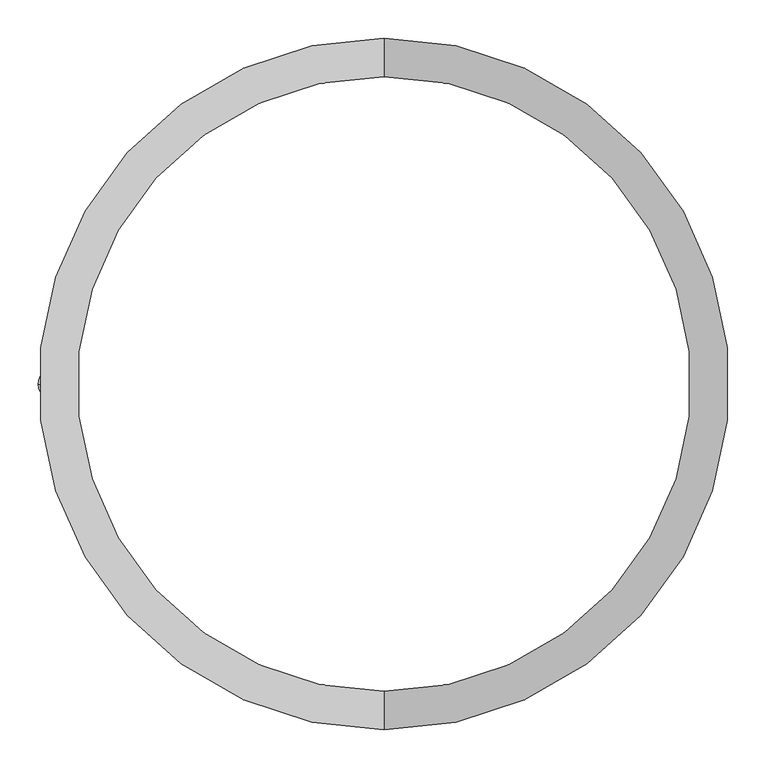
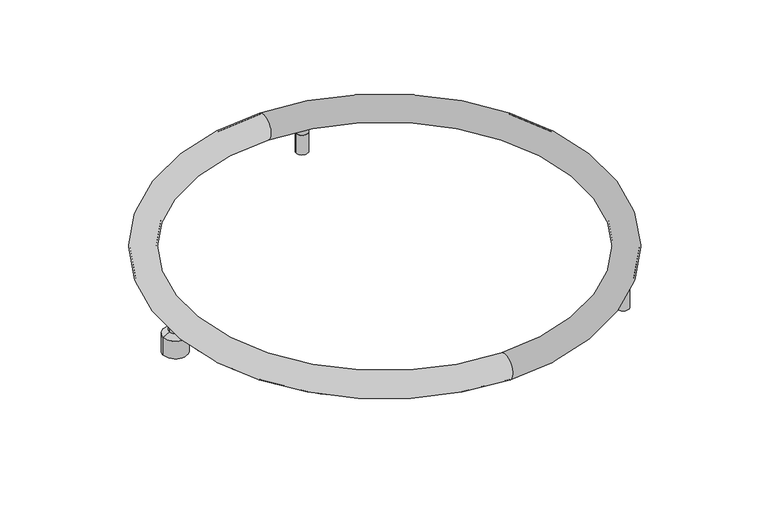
"""IFC4 building model written with IfcOpenShell, lengths in millimetres: light fixture geometry, ARTEMIDE-AoL-StandAlone-Circular_WallCeiling : StandALone_SemiRecessed_Circular-900mm 6040lm 3000K."""

from ifc_helpers import new_model, si_unit, point, frame, origin, place, context, project, spatial, polyline, circle_curve, ellipse_curve, trimmed, source, transform, mapped, element, save
from ifc_brep_helpers import plane_surface, cylinder_surface, revolved_surface, advanced_brep


def light_fixture_ff770107(model_context):
    return source(origin(), model_context, "Body", "AdvancedBrep", [
        advanced_brep(
        [(0.0, 0.0, 54.0), (12.0, 0.0, 54.0), (-12.0, 0.0, 54.0), (-25.0, 0.0, 0.0), (25.0, 0.0, 0.0), (0.0, 0.0, 0.0), (-25.0, 0.0, 37.5120373), (25.0, 0.0, 37.5120373), (-12.0, 0.0, 44.4453706), (12.0, 0.0, 44.4453706)],
        [
            (0, 1),
            (1, 2, circle_curve(frame((0.0, 0.0, 54.0), z_axis=(0.0, 0.0, 1.0), x_axis=(1.0, 0.0, 0.0)), 12.0)),
            (2, 0),
            (2, 1, circle_curve(frame((0.0, 0.0, 54.0), z_axis=(0.0, 0.0, 1.0), x_axis=(1.0, 0.0, 0.0)), 12.0)),
            (3, 4, circle_curve(frame((0.0, 0.0, 0.0), z_axis=(0.0, 0.0, -1.0), x_axis=(1.0, 0.0, 0.0)), 25.0)),
            (4, 5),
            (5, 3),
            (4, 3, circle_curve(frame((0.0, 0.0, 0.0), z_axis=(0.0, 0.0, -1.0), x_axis=(1.0, 0.0, 0.0)), 25.0)),
            (6, 7, circle_curve(frame((0.0, 0.0, 37.5120373), z_axis=(0.0, 0.0, -1.0), x_axis=(1.0, 0.0, 0.0)), 25.0)),
            (7, 4),
            (3, 6),
            (7, 6, circle_curve(frame((0.0, 0.0, 37.5120373), z_axis=(0.0, 0.0, -1.0), x_axis=(1.0, 0.0, 0.0)), 25.0)),
            (8, 9, circle_curve(frame((0.0, 0.0, 44.4453706), z_axis=(0.0, 0.0, -1.0), x_axis=(1.0, 0.0, 0.0)), 12.0)),
            (9, 7),
            (6, 8),
            (9, 8, circle_curve(frame((0.0, 0.0, 44.4453706), z_axis=(0.0, 0.0, -1.0), x_axis=(1.0, 0.0, 0.0)), 12.0)),
            (1, 9),
            (8, 2),
        ],
        [
            plane_surface(frame((0.0, 0.0, 54.0), z_axis=(0.0, 0.0, 1.0), x_axis=(1.0, 0.0, 0.0))),
            plane_surface(frame((0.0, 0.0, 0.0), z_axis=(0.0, 0.0, -1.0), x_axis=(1.0, 0.0, 0.0))),
            cylinder_surface(frame((0.0, 0.0, -58.83358), z_axis=(0.0, 0.0, 1.0), x_axis=(1.0, 0.0, 0.0)), 25.0),
            revolved_surface(polyline([(25.0, 0.0, 37.5120373), (12.0, 0.0, 44.4453706)]), (0.0, 0.0, -58.83358), (0.0, 0.0, 1.0)),
            cylinder_surface(frame((0.0, 0.0, -58.83358), z_axis=(0.0, 0.0, 1.0), x_axis=(1.0, 0.0, 0.0)), 12.0),
        ],
        [
            (0, [[1, 2, 3]]),
            (0, [[-3, 4, -1]]),
            (1, [[5, 6, 7]]),
            (1, [[8, -7, -6]]),
            (2, [[9, 10, -5, 11]]),
            (2, [[12, -11, -8, -10]]),
            (3, [[13, 14, -9, 15]]),
            (3, [[16, -15, -12, -14]]),
            (4, [[-2, 17, -13, 18]]),
            (4, [[-4, -18, -16, -17]]),
        ],
    ),
        advanced_brep(
        [(504.1, 418.0, 0.0), (493.1, 418.0, 0.0), (498.6, 418.0, 0.0), (504.1, 418.0, 1.0), (493.1, 418.0, 1.0), (510.6, 418.0, 1.0), (486.6, 418.0, 1.0), (510.6, 418.0, 42.5), (486.6, 418.0, 42.5), (508.1243756, 418.0, 42.5), (489.0756244, 418.0, 42.5), (508.1243756, 418.0, 43.4995055), (489.0756244, 418.0, 43.4995055), (510.6, 418.0, 43.4995055), (486.6, 418.0, 43.4995055), (510.6, 418.0, 52.9579379), (486.6, 418.0, 52.9579379), (498.6, 418.0, 52.9579379)],
        [
            (0, 1, circle_curve(frame((498.6, 418.0, 0.0), z_axis=(0.0, 0.0, -1.0), x_axis=(-1.0, 0.0, 0.0)), 5.5)),
            (1, 2),
            (2, 0),
            (1, 0, circle_curve(frame((498.6, 418.0, 0.0), z_axis=(0.0, 0.0, -1.0), x_axis=(-1.0, 0.0, 0.0)), 5.5)),
            (3, 4, circle_curve(frame((498.6, 418.0, 1.0), z_axis=(0.0, 0.0, -1.0), x_axis=(-1.0, 0.0, 0.0)), 5.5)),
            (4, 1),
            (0, 3),
            (4, 3, circle_curve(frame((498.6, 418.0, 1.0), z_axis=(0.0, 0.0, -1.0), x_axis=(-1.0, 0.0, 0.0)), 5.5)),
            (5, 6, circle_curve(frame((498.6, 418.0, 1.0), z_axis=(0.0, 0.0, -1.0), x_axis=(-1.0, 0.0, 0.0)), 12.0)),
            (6, 4),
            (3, 5),
            (6, 5, circle_curve(frame((498.6, 418.0, 1.0), z_axis=(0.0, 0.0, -1.0), x_axis=(-1.0, 0.0, 0.0)), 12.0)),
            (7, 8, circle_curve(frame((498.6, 418.0, 42.5), z_axis=(0.0, 0.0, -1.0), x_axis=(-1.0, 0.0, 0.0)), 12.0)),
            (8, 6),
            (5, 7),
            (8, 7, circle_curve(frame((498.6, 418.0, 42.5), z_axis=(0.0, 0.0, -1.0), x_axis=(-1.0, 0.0, 0.0)), 12.0)),
            (9, 10, circle_curve(frame((498.6, 418.0, 42.5), z_axis=(0.0, 0.0, -1.0), x_axis=(-1.0, 0.0, 0.0)), 9.5243756)),
            (10, 8),
            (7, 9),
            (10, 9, circle_curve(frame((498.6, 418.0, 42.5), z_axis=(0.0, 0.0, -1.0), x_axis=(-1.0, 0.0, 0.0)), 9.5243756)),
            (11, 12, circle_curve(frame((498.6, 418.0, 43.4995055), z_axis=(0.0, 0.0, -1.0), x_axis=(-1.0, 0.0, 0.0)), 9.5243756)),
            (12, 10),
            (9, 11),
            (12, 11, circle_curve(frame((498.6, 418.0, 43.4995055), z_axis=(0.0, 0.0, -1.0), x_axis=(-1.0, 0.0, 0.0)), 9.5243756)),
            (13, 14, circle_curve(frame((498.6, 418.0, 43.4995055), z_axis=(0.0, 0.0, -1.0), x_axis=(-1.0, 0.0, 0.0)), 12.0)),
            (14, 12),
            (11, 13),
            (14, 13, circle_curve(frame((498.6, 418.0, 43.4995055), z_axis=(0.0, 0.0, -1.0), x_axis=(-1.0, 0.0, 0.0)), 12.0)),
            (15, 16, circle_curve(frame((498.6, 418.0, 52.9579379), z_axis=(0.0, 0.0, -1.0), x_axis=(-1.0, 0.0, 0.0)), 12.0)),
            (16, 14),
            (13, 15),
            (16, 15, circle_curve(frame((498.6, 418.0, 52.9579379), z_axis=(0.0, 0.0, -1.0), x_axis=(-1.0, 0.0, 0.0)), 12.0)),
            (17, 16),
            (15, 17),
        ],
        [
            plane_surface(frame((498.6, 418.0, 0.0), z_axis=(0.0, 0.0, -1.0), x_axis=(-1.0, 0.0, 0.0))),
            cylinder_surface(frame((498.6, 418.0, -58.83358), z_axis=(0.0, 0.0, 1.0), x_axis=(-1.0, 0.0, 0.0)), 5.5),
            plane_surface(frame((498.6, 418.0, 1.0), z_axis=(0.0, 0.0, -1.0), x_axis=(-1.0, 0.0, 0.0))),
            cylinder_surface(frame((498.6, 418.0, -58.83358), z_axis=(0.0, 0.0, 1.0), x_axis=(-1.0, 0.0, 0.0)), 12.0),
            plane_surface(frame((498.6, 418.0, 42.5), z_axis=(0.0, 0.0, 1.0), x_axis=(-1.0, 0.0, 0.0))),
            cylinder_surface(frame((498.6, 418.0, -58.83358), z_axis=(0.0, 0.0, 1.0), x_axis=(-1.0, 0.0, 0.0)), 9.5243756),
            plane_surface(frame((498.6, 418.0, 43.4995055), z_axis=(0.0, 0.0, -1.0), x_axis=(-1.0, 0.0, 0.0))),
            plane_surface(frame((498.6, 418.0, 52.9579379), z_axis=(0.0, 0.0, 1.0), x_axis=(-1.0, 0.0, 0.0))),
        ],
        [
            (0, [[1, 2, 3]]),
            (0, [[4, -3, -2]]),
            (1, [[5, 6, -1, 7]]),
            (1, [[8, -7, -4, -6]]),
            (2, [[9, 10, -5, 11]]),
            (2, [[12, -11, -8, -10]]),
            (3, [[13, 14, -9, 15]]),
            (3, [[16, -15, -12, -14]]),
            (4, [[17, 18, -13, 19]]),
            (4, [[20, -19, -16, -18]]),
            (5, [[21, 22, -17, 23]]),
            (5, [[24, -23, -20, -22]]),
            (6, [[25, 26, -21, 27]]),
            (6, [[28, -27, -24, -26]]),
            (3, [[29, 30, -25, 31]]),
            (3, [[32, -31, -28, -30]]),
            (7, [[33, -29, 34]]),
            (7, [[-34, -32, -33]]),
        ],
    ),
        advanced_brep(
        [(753.5, -278.8, 0.0), (742.5, -278.8, 0.0), (748.0, -278.8, 0.0), (753.5, -278.8, 1.0), (742.5, -278.8, 1.0), (760.0, -278.8, 1.0), (736.0, -278.8, 1.0), (760.0, -278.8, 42.5), (736.0, -278.8, 42.5), (757.5243756, -278.8, 42.5), (738.4756244, -278.8, 42.5), (757.5243756, -278.8, 43.4995055), (738.4756244, -278.8, 43.4995055), (760.0, -278.8, 43.4995055), (736.0, -278.8, 43.4995055), (760.0, -278.8, 52.9579379), (736.0, -278.8, 52.9579379), (748.0, -278.8, 52.9579379)],
        [
            (0, 1, circle_curve(frame((748.0, -278.8, 0.0), z_axis=(0.0, 0.0, -1.0), x_axis=(-1.0, 0.0, 0.0)), 5.5)),
            (1, 2),
            (2, 0),
            (1, 0, circle_curve(frame((748.0, -278.8, 0.0), z_axis=(0.0, 0.0, -1.0), x_axis=(-1.0, 0.0, 0.0)), 5.5)),
            (3, 4, circle_curve(frame((748.0, -278.8, 1.0), z_axis=(0.0, 0.0, -1.0), x_axis=(-1.0, 0.0, 0.0)), 5.5)),
            (4, 1),
            (0, 3),
            (4, 3, circle_curve(frame((748.0, -278.8, 1.0), z_axis=(0.0, 0.0, -1.0), x_axis=(-1.0, 0.0, 0.0)), 5.5)),
            (5, 6, circle_curve(frame((748.0, -278.8, 1.0), z_axis=(0.0, 0.0, -1.0), x_axis=(-1.0, 0.0, 0.0)), 12.0)),
            (6, 4),
            (3, 5),
            (6, 5, circle_curve(frame((748.0, -278.8, 1.0), z_axis=(0.0, 0.0, -1.0), x_axis=(-1.0, 0.0, 0.0)), 12.0)),
            (7, 8, circle_curve(frame((748.0, -278.8, 42.5), z_axis=(0.0, 0.0, -1.0), x_axis=(-1.0, 0.0, 0.0)), 12.0)),
            (8, 6),
            (5, 7),
            (8, 7, circle_curve(frame((748.0, -278.8, 42.5), z_axis=(0.0, 0.0, -1.0), x_axis=(-1.0, 0.0, 0.0)), 12.0)),
            (9, 10, circle_curve(frame((748.0, -278.8, 42.5), z_axis=(0.0, 0.0, -1.0), x_axis=(-1.0, 0.0, 0.0)), 9.5243756)),
            (10, 8),
            (7, 9),
            (10, 9, circle_curve(frame((748.0, -278.8, 42.5), z_axis=(0.0, 0.0, -1.0), x_axis=(-1.0, 0.0, 0.0)), 9.5243756)),
            (11, 12, circle_curve(frame((748.0, -278.8, 43.4995055), z_axis=(0.0, 0.0, -1.0), x_axis=(-1.0, 0.0, 0.0)), 9.5243756)),
            (12, 10),
            (9, 11),
            (12, 11, circle_curve(frame((748.0, -278.8, 43.4995055), z_axis=(0.0, 0.0, -1.0), x_axis=(-1.0, 0.0, 0.0)), 9.5243756)),
            (13, 14, circle_curve(frame((748.0, -278.8, 43.4995055), z_axis=(0.0, 0.0, -1.0), x_axis=(-1.0, 0.0, 0.0)), 12.0)),
            (14, 12),
            (11, 13),
            (14, 13, circle_curve(frame((748.0, -278.8, 43.4995055), z_axis=(0.0, 0.0, -1.0), x_axis=(-1.0, 0.0, 0.0)), 12.0)),
            (15, 16, circle_curve(frame((748.0, -278.8, 52.9579379), z_axis=(0.0, 0.0, -1.0), x_axis=(-1.0, 0.0, 0.0)), 12.0)),
            (16, 14),
            (13, 15),
            (16, 15, circle_curve(frame((748.0, -278.8, 52.9579379), z_axis=(0.0, 0.0, -1.0), x_axis=(-1.0, 0.0, 0.0)), 12.0)),
            (17, 16),
            (15, 17),
        ],
        [
            plane_surface(frame((748.0, -278.8, 0.0), z_axis=(0.0, 0.0, -1.0), x_axis=(-1.0, 0.0, 0.0))),
            cylinder_surface(frame((748.0, -278.8, -58.83358), z_axis=(0.0, 0.0, 1.0), x_axis=(-1.0, 0.0, 0.0)), 5.5),
            plane_surface(frame((748.0, -278.8, 1.0), z_axis=(0.0, 0.0, -1.0), x_axis=(-1.0, 0.0, 0.0))),
            cylinder_surface(frame((748.0, -278.8, -58.83358), z_axis=(0.0, 0.0, 1.0), x_axis=(-1.0, 0.0, 0.0)), 12.0),
            plane_surface(frame((748.0, -278.8, 42.5), z_axis=(0.0, 0.0, 1.0), x_axis=(-1.0, 0.0, 0.0))),
            cylinder_surface(frame((748.0, -278.8, -58.83358), z_axis=(0.0, 0.0, 1.0), x_axis=(-1.0, 0.0, 0.0)), 9.5243756),
            plane_surface(frame((748.0, -278.8, 43.4995055), z_axis=(0.0, 0.0, -1.0), x_axis=(-1.0, 0.0, 0.0))),
            plane_surface(frame((748.0, -278.8, 52.9579379), z_axis=(0.0, 0.0, 1.0), x_axis=(-1.0, 0.0, 0.0))),
        ],
        [
            (0, [[1, 2, 3]]),
            (0, [[4, -3, -2]]),
            (1, [[5, 6, -1, 7]]),
            (1, [[8, -7, -4, -6]]),
            (2, [[9, 10, -5, 11]]),
            (2, [[12, -11, -8, -10]]),
            (3, [[13, 14, -9, 15]]),
            (3, [[16, -15, -12, -14]]),
            (4, [[17, 18, -13, 19]]),
            (4, [[20, -19, -16, -18]]),
            (5, [[21, 22, -17, 23]]),
            (5, [[24, -23, -20, -22]]),
            (6, [[25, 26, -21, 27]]),
            (6, [[28, -27, -24, -26]]),
            (3, [[29, 30, -25, 31]]),
            (3, [[32, -31, -28, -30]]),
            (7, [[33, -29, 34]]),
            (7, [[-34, -32, -33]]),
        ],
    ),
        advanced_brep(
        [(425.3445739, -413.1969999, 52.9151372), (425.3445739, 413.3030001, 52.9151372), (425.3445739, 436.8030001, 52.9151372), (425.3445739, -436.6969999, 52.9151372), (425.3445739, -413.1969999, 57.2410096), (425.3445739, 413.3030001, 57.2410096), (425.3445739, -411.2792459, 55.8106819), (425.3445739, 411.3852461, 55.8106819), (425.3445739, 411.3852461, 57.2410096), (425.3445739, -411.2792459, 57.2410096), (425.3445739, -409.3292459, 57.2258724), (425.3445739, 409.4352461, 57.2258724), (425.3445739, -409.3292459, 59.2258716), (425.3445739, 409.4352461, 59.2258716), (425.3445739, -412.2792459, 60.7258716), (425.3445739, 412.3852461, 60.7258716), (425.3445739, 412.3852461, 59.2258716), (425.3445739, -412.2792459, 59.2258716), (425.3445739, -442.2249794, 60.7258716), (425.3445739, 442.3309795, 60.7258716), (425.3445739, 407.7750206, 60.7258716), (425.3445739, -407.6690205, 60.7258716), (425.3445739, -437.6147539, 59.2258716), (425.3445739, 437.7207541, 59.2258716), (425.3445739, 437.7207541, 60.7258716), (425.3445739, -437.6147539, 60.7258716), (425.3445739, -440.5647539, 57.2258724), (425.3445739, 440.6707541, 57.2258724), (425.3445739, 440.6707541, 59.2258716), (425.3445739, -440.5647539, 59.2258716), (425.3445739, -438.6147539, 55.8106819), (425.3445739, 438.7207541, 55.8106819), (425.3445739, -438.6147539, 57.2410096), (425.3445739, 438.7207541, 57.2410096), (425.3445739, 436.8030001, 57.2410096), (425.3445739, -436.6969999, 57.2410096)],
        [
            (0, 1, circle_curve(frame((425.3445739, 0.0530001, 52.9151372), z_axis=(0.0, 0.0, -1.0), x_axis=(0.0, 1.0, 0.0)), 413.25)),
            (1, 2, circle_curve(frame((425.3445739, 425.0530001, 74.9817976), z_axis=(-1.0, 0.0, 0.0), x_axis=(0.0, -1.0, 0.0)), 25.0)),
            (2, 3, circle_curve(frame((425.3445739, 0.0530001, 52.9151372), z_axis=(0.0, 0.0, 1.0), x_axis=(0.0, 1.0, 0.0)), 436.75)),
            (3, 0, circle_curve(frame((425.3445739, -424.9469999, 74.9817976), z_axis=(-1.0, 0.0, 0.0), x_axis=(0.0, 1.0, 0.0)), 25.0)),
            (4, 5, circle_curve(frame((425.3445739, 0.0530001, 57.2410096), z_axis=(0.0, 0.0, -1.0), x_axis=(0.0, 1.0, 0.0)), 413.25)),
            (5, 1),
            (0, 4),
            (6, 7, circle_curve(frame((425.3445739, 0.0530001, 55.8106819), z_axis=(0.0, 0.0, -1.0), x_axis=(0.0, 1.0, 0.0)), 411.332246)),
            (7, 8),
            (8, 9, circle_curve(frame((425.3445739, 0.0530001, 57.2410096), z_axis=(0.0, 0.0, 1.0), x_axis=(0.0, 1.0, 0.0)), 411.332246)),
            (9, 6),
            (10, 11, circle_curve(frame((425.3445739, 0.0530001, 57.2258724), z_axis=(0.0, 0.0, -1.0), x_axis=(0.0, 1.0, 0.0)), 409.382246)),
            (11, 7),
            (6, 10),
            (12, 13, circle_curve(frame((425.3445739, 0.0530001, 59.2258716), z_axis=(0.0, 0.0, -1.0), x_axis=(0.0, 1.0, 0.0)), 409.382246)),
            (13, 11),
            (10, 12),
            (14, 15, circle_curve(frame((425.3445739, 0.0530001, 60.7258716), z_axis=(0.0, 0.0, -1.0), x_axis=(0.0, 1.0, 0.0)), 412.332246)),
            (15, 16),
            (16, 17, circle_curve(frame((425.3445739, 0.0530001, 59.2258716), z_axis=(0.0, 0.0, 1.0), x_axis=(0.0, 1.0, 0.0)), 412.332246)),
            (17, 14),
            (18, 19, circle_curve(frame((425.3445739, 0.0530001, 60.7258716), z_axis=(0.0, 0.0, -1.0), x_axis=(0.0, 1.0, 0.0)), 442.2779794)),
            (19, 20, circle_curve(frame((425.3445739, 425.0530001, 74.9817976), z_axis=(1.0, 0.0, 0.0), x_axis=(0.0, -1.0, 0.0)), 22.4)),
            (20, 21, circle_curve(frame((425.3445739, 0.0530001, 60.7258716), z_axis=(0.0, 0.0, 1.0), x_axis=(0.0, 1.0, 0.0)), 407.7220206)),
            (21, 18, circle_curve(frame((425.3445739, -424.9469999, 74.9817976), z_axis=(1.0, 0.0, 0.0), x_axis=(0.0, 1.0, 0.0)), 22.4)),
            (22, 23, circle_curve(frame((425.3445739, 0.0530001, 59.2258716), z_axis=(0.0, 0.0, -1.0), x_axis=(0.0, 1.0, 0.0)), 437.667754)),
            (23, 24),
            (24, 25, circle_curve(frame((425.3445739, 0.0530001, 60.7258716), z_axis=(0.0, 0.0, 1.0), x_axis=(0.0, 1.0, 0.0)), 437.667754)),
            (25, 22),
            (26, 27, circle_curve(frame((425.3445739, 0.0530001, 57.2258724), z_axis=(0.0, 0.0, -1.0), x_axis=(0.0, 1.0, 0.0)), 440.617754)),
            (27, 28),
            (28, 29, circle_curve(frame((425.3445739, 0.0530001, 59.2258716), z_axis=(0.0, 0.0, 1.0), x_axis=(0.0, 1.0, 0.0)), 440.617754)),
            (29, 26),
            (30, 31, circle_curve(frame((425.3445739, 0.0530001, 55.8106819), z_axis=(0.0, 0.0, -1.0), x_axis=(0.0, 1.0, 0.0)), 438.667754)),
            (31, 27),
            (26, 30),
            (32, 33, circle_curve(frame((425.3445739, 0.0530001, 57.2410096), z_axis=(0.0, 0.0, -1.0), x_axis=(0.0, 1.0, 0.0)), 438.667754)),
            (33, 31),
            (30, 32),
            (2, 34),
            (34, 35, circle_curve(frame((425.3445739, 0.0530001, 57.2410096), z_axis=(0.0, 0.0, 1.0), x_axis=(0.0, 1.0, 0.0)), 436.75)),
            (35, 3),
            (1, 0, circle_curve(frame((425.3445739, 0.0530001, 52.9151372), z_axis=(0.0, 0.0, -1.0), x_axis=(0.0, -1.0, 0.0)), 413.25)),
            (3, 2, circle_curve(frame((425.3445739, 0.0530001, 52.9151372), z_axis=(0.0, 0.0, 1.0), x_axis=(0.0, -1.0, 0.0)), 436.75)),
            (5, 4, circle_curve(frame((425.3445739, 0.0530001, 57.2410096), z_axis=(0.0, 0.0, -1.0), x_axis=(0.0, -1.0, 0.0)), 413.25)),
            (8, 9, circle_curve(frame((425.3445739, 0.0530001, 57.2410096), z_axis=(0.0, 0.0, -1.0), x_axis=(0.0, -1.0, 0.0)), 411.332246)),
            (7, 6, circle_curve(frame((425.3445739, 0.0530001, 55.8106819), z_axis=(0.0, 0.0, -1.0), x_axis=(0.0, -1.0, 0.0)), 411.332246)),
            (11, 10, circle_curve(frame((425.3445739, 0.0530001, 57.2258724), z_axis=(0.0, 0.0, -1.0), x_axis=(0.0, -1.0, 0.0)), 409.382246)),
            (13, 12, circle_curve(frame((425.3445739, 0.0530001, 59.2258716), z_axis=(0.0, 0.0, -1.0), x_axis=(0.0, -1.0, 0.0)), 409.382246)),
            (16, 17, circle_curve(frame((425.3445739, 0.0530001, 59.2258716), z_axis=(0.0, 0.0, -1.0), x_axis=(0.0, -1.0, 0.0)), 412.332246)),
            (15, 14, circle_curve(frame((425.3445739, 0.0530001, 60.7258716), z_axis=(0.0, 0.0, -1.0), x_axis=(0.0, -1.0, 0.0)), 412.332246)),
            (20, 21, circle_curve(frame((425.3445739, 0.0530001, 60.7258716), z_axis=(0.0, 0.0, -1.0), x_axis=(0.0, -1.0, 0.0)), 407.7220206)),
            (19, 18, circle_curve(frame((425.3445739, 0.0530001, 60.7258716), z_axis=(0.0, 0.0, -1.0), x_axis=(0.0, -1.0, 0.0)), 442.2779794)),
            (24, 25, circle_curve(frame((425.3445739, 0.0530001, 60.7258716), z_axis=(0.0, 0.0, -1.0), x_axis=(0.0, -1.0, 0.0)), 437.667754)),
            (23, 22, circle_curve(frame((425.3445739, 0.0530001, 59.2258716), z_axis=(0.0, 0.0, -1.0), x_axis=(0.0, -1.0, 0.0)), 437.667754)),
            (28, 29, circle_curve(frame((425.3445739, 0.0530001, 59.2258716), z_axis=(0.0, 0.0, -1.0), x_axis=(0.0, -1.0, 0.0)), 440.617754)),
            (27, 26, circle_curve(frame((425.3445739, 0.0530001, 57.2258724), z_axis=(0.0, 0.0, -1.0), x_axis=(0.0, -1.0, 0.0)), 440.617754)),
            (31, 30, circle_curve(frame((425.3445739, 0.0530001, 55.8106819), z_axis=(0.0, 0.0, -1.0), x_axis=(0.0, -1.0, 0.0)), 438.667754)),
            (33, 32, circle_curve(frame((425.3445739, 0.0530001, 57.2410096), z_axis=(0.0, 0.0, -1.0), x_axis=(0.0, -1.0, 0.0)), 438.667754)),
            (34, 35, circle_curve(frame((425.3445739, 0.0530001, 57.2410096), z_axis=(0.0, 0.0, -1.0), x_axis=(0.0, -1.0, 0.0)), 436.75)),
        ],
        [
            revolved_surface(trimmed(ellipse_curve(frame((425.3445739, 425.0530001, 74.9817976), z_axis=(1.0, 0.0, 0.0), x_axis=(0.0, -1.0, 0.0)), 25.0, 25.0), [point((425.3445739, 436.8030001, 52.9151372))], [point((425.3445739, 413.3030001, 52.9151372))], True, "CARTESIAN"), (425.3445739, 0.0530001, 50.0), (0.0, 0.0, 1.0)),
            cylinder_surface(frame((425.3445739, 0.0530001, 50.0), z_axis=(0.0, 0.0, 1.0), x_axis=(0.0, 1.0, 0.0)), 413.25),
            revolved_surface(polyline([(425.3445739, 411.3852461, 57.2410096), (425.3445739, 411.3852461, 55.8106819)]), (425.3445739, 0.0530001, 50.0), (0.0, 0.0, 1.0)),
            revolved_surface(polyline([(425.3445739, 411.3852461, 55.8106819), (425.3445739, 409.4352461, 57.2258724)]), (425.3445739, 0.0530001, 50.0), (0.0, 0.0, 1.0)),
            cylinder_surface(frame((425.3445739, 0.0530001, 50.0), z_axis=(0.0, 0.0, 1.0), x_axis=(0.0, 1.0, 0.0)), 409.382246),
            cylinder_surface(frame((425.3445739, 0.0530001, 50.0), z_axis=(0.0, 0.0, 1.0), x_axis=(0.0, 1.0, 0.0)), 412.332246),
            revolved_surface(trimmed(ellipse_curve(frame((425.3445739, 425.0530001, 74.9817976), z_axis=(-1.0, 0.0, 0.0), x_axis=(0.0, -1.0, 0.0)), 22.4, 22.4), [point((425.3445739, 407.7750206, 60.7258716))], [point((425.3445739, 442.3309795, 60.7258716))], True, "CARTESIAN"), (425.3445739, 0.0530001, 50.0), (0.0, 0.0, 1.0)),
            revolved_surface(polyline([(425.3445739, 437.7207541, 60.7258716), (425.3445739, 437.7207541, 59.2258716)]), (425.3445739, 0.0530001, 50.0), (0.0, 0.0, 1.0)),
            revolved_surface(polyline([(425.3445739, 440.6707541, 59.2258716), (425.3445739, 440.6707541, 57.2258724)]), (425.3445739, 0.0530001, 50.0), (0.0, 0.0, 1.0)),
            revolved_surface(polyline([(425.3445739, 440.6707541, 57.2258724), (425.3445739, 438.7207541, 55.8106819)]), (425.3445739, 0.0530001, 50.0), (0.0, 0.0, 1.0)),
            cylinder_surface(frame((425.3445739, 0.0530001, 50.0), z_axis=(0.0, 0.0, 1.0), x_axis=(0.0, 1.0, 0.0)), 438.667754),
            revolved_surface(polyline([(425.3445739, 436.8030001, 57.2410096), (425.3445739, 436.8030001, 52.9151372)]), (425.3445739, 0.0530001, 50.0), (0.0, 0.0, 1.0)),
            revolved_surface(trimmed(ellipse_curve(frame((425.3445739, -424.9469999, 74.9817976), z_axis=(-1.0, 0.0, 0.0), x_axis=(0.0, 1.0, 0.0)), 25.0, 25.0), [point((425.3445739, -436.6969999, 52.9151372))], [point((425.3445739, -413.1969999, 52.9151372))], True, "CARTESIAN"), (425.3445739, 0.0530001, 50.0), (0.0, 0.0, 1.0)),
            cylinder_surface(frame((425.3445739, 0.0530001, 50.0), z_axis=(0.0, 0.0, 1.0), x_axis=(0.0, -1.0, 0.0)), 413.25),
            plane_surface(frame((425.3445739, 0.0530001, 57.2410096), z_axis=(0.0, 0.0, 1.0), x_axis=(0.0, -1.0, 0.0))),
            revolved_surface(polyline([(425.3445739, -411.2792459, 57.2410096), (425.3445739, -411.2792459, 55.8106819)]), (425.3445739, 0.0530001, 50.0), (0.0, 0.0, 1.0)),
            revolved_surface(polyline([(425.3445739, -411.2792459, 55.8106819), (425.3445739, -409.3292459, 57.2258724)]), (425.3445739, 0.0530001, 50.0), (0.0, 0.0, 1.0)),
            cylinder_surface(frame((425.3445739, 0.0530001, 50.0), z_axis=(0.0, 0.0, 1.0), x_axis=(0.0, -1.0, 0.0)), 409.382246),
            plane_surface(frame((425.3445739, 0.0530001, 59.2258716), z_axis=(0.0, 0.0, -1.0), x_axis=(0.0, -1.0, 0.0))),
            cylinder_surface(frame((425.3445739, 0.0530001, 50.0), z_axis=(0.0, 0.0, 1.0), x_axis=(0.0, -1.0, 0.0)), 412.332246),
            plane_surface(frame((425.3445739, 0.0530001, 60.7258716), z_axis=(0.0, 0.0, 1.0), x_axis=(0.0, -1.0, 0.0))),
            revolved_surface(trimmed(ellipse_curve(frame((425.3445739, -424.9469999, 74.9817976), z_axis=(1.0, 0.0, 0.0), x_axis=(0.0, 1.0, 0.0)), 22.4, 22.4), [point((425.3445739, -407.6690205, 60.7258716))], [point((425.3445739, -442.2249794, 60.7258716))], True, "CARTESIAN"), (425.3445739, 0.0530001, 50.0), (0.0, 0.0, 1.0)),
            revolved_surface(polyline([(425.3445739, -437.6147539, 60.7258716), (425.3445739, -437.6147539, 59.2258716)]), (425.3445739, 0.0530001, 50.0), (0.0, 0.0, 1.0)),
            revolved_surface(polyline([(425.3445739, -440.56475389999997, 59.2258716), (425.3445739, -440.56475389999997, 57.2258724)]), (425.3445739, 0.0530001, 50.0), (0.0, 0.0, 1.0)),
            revolved_surface(polyline([(425.3445739, -440.5647539, 57.2258724), (425.3445739, -438.6147539, 55.8106819)]), (425.3445739, 0.0530001, 50.0), (0.0, 0.0, 1.0)),
            cylinder_surface(frame((425.3445739, 0.0530001, 50.0), z_axis=(0.0, 0.0, 1.0), x_axis=(0.0, -1.0, 0.0)), 438.667754),
            revolved_surface(polyline([(425.3445739, -436.6969999, 57.2410096), (425.3445739, -436.6969999, 52.9151372)]), (425.3445739, 0.0530001, 50.0), (0.0, 0.0, 1.0)),
        ],
        [
            (0, [[1, 2, 3, 4]]),
            (1, [[5, 6, -1, 7]]),
            (2, [[8, 9, 10, 11]]),
            (3, [[12, 13, -8, 14]]),
            (4, [[15, 16, -12, 17]]),
            (5, [[18, 19, 20, 21]]),
            (6, [[22, 23, 24, 25]]),
            (7, [[26, 27, 28, 29]]),
            (8, [[30, 31, 32, 33]]),
            (9, [[34, 35, -30, 36]]),
            (10, [[37, 38, -34, 39]]),
            (11, [[-3, 40, 41, 42]]),
            (12, [[43, -4, 44, -2]]),
            (13, [[45, -7, -43, -6]]),
            (14, [[-45, -5], [46, -10]]),
            (15, [[47, -11, -46, -9]]),
            (16, [[48, -14, -47, -13]]),
            (17, [[49, -17, -48, -16]]),
            (18, [[50, -20], [-49, -15]]),
            (19, [[51, -21, -50, -19]]),
            (20, [[-51, -18], [52, -24]]),
            (21, [[53, -25, -52, -23]]),
            (20, [[-53, -22], [54, -28]]),
            (22, [[55, -29, -54, -27]]),
            (18, [[56, -32], [-55, -26]]),
            (23, [[57, -33, -56, -31]]),
            (24, [[58, -36, -57, -35]]),
            (25, [[59, -39, -58, -38]]),
            (14, [[-59, -37], [60, -41]]),
            (26, [[-44, -42, -60, -40]]),
        ],
    ),
        advanced_brep(
        [(425.3445739, -435.75, 52.9), (425.3445739, 437.75, 52.9), (425.3445739, 414.25, 52.9), (425.3445739, -412.25, 52.9), (425.3445739, -435.75, 57.2258724), (425.3445739, 437.75, 57.2258724), (425.3445739, -439.304087, 58.7526314), (425.3445739, 441.304087, 58.7526314), (425.3445739, 441.304087, 57.2258724), (425.3445739, -439.304087, 57.2258724), (425.3445739, -433.5062575, 64.3940086), (425.3445739, 435.5062575, 64.3940086), (425.3445739, 435.5062575, 58.7526314), (425.3445739, -433.5062575, 58.7526314), (425.3445739, -414.4937425, 58.7526314), (425.3445739, 416.4937425, 58.7526314), (425.3445739, 416.4937425, 64.3940086), (425.3445739, -414.4937425, 64.3940086), (425.3445739, -408.695913, 57.2258724), (425.3445739, 410.695913, 57.2258724), (425.3445739, 410.695913, 58.7526314), (425.3445739, -408.695913, 58.7526314), (425.3445739, 414.25, 57.2258724), (425.3445739, -412.25, 57.2258724)],
        [
            (0, 1, circle_curve(frame((425.3445739, 1.0, 52.9), z_axis=(0.0, 0.0, -1.0), x_axis=(0.0, 1.0, 0.0)), 436.75)),
            (1, 2, circle_curve(frame((425.3445739, 426.0, 74.9666604), z_axis=(-1.0, 0.0, 0.0), x_axis=(0.0, -1.0, 0.0)), 25.0)),
            (2, 3, circle_curve(frame((425.3445739, 1.0, 52.9), z_axis=(0.0, 0.0, 1.0), x_axis=(0.0, 1.0, 0.0)), 413.25)),
            (3, 0, circle_curve(frame((425.3445739, -424.0, 74.9666604), z_axis=(-1.0, 0.0, 0.0), x_axis=(0.0, 1.0, 0.0)), 25.0)),
            (4, 5, circle_curve(frame((425.3445739, 1.0, 57.2258724), z_axis=(0.0, 0.0, -1.0), x_axis=(0.0, 1.0, 0.0)), 436.75)),
            (5, 1),
            (0, 4),
            (6, 7, circle_curve(frame((425.3445739, 1.0, 58.7526314), z_axis=(0.0, 0.0, -1.0), x_axis=(0.0, 1.0, 0.0)), 440.304087)),
            (7, 8),
            (8, 9, circle_curve(frame((425.3445739, 1.0, 57.2258724), z_axis=(0.0, 0.0, 1.0), x_axis=(0.0, 1.0, 0.0)), 440.304087)),
            (9, 6),
            (10, 11, circle_curve(frame((425.3445739, 1.0, 64.3940086), z_axis=(0.0, 0.0, -1.0), x_axis=(0.0, 1.0, 0.0)), 434.5062575)),
            (11, 12),
            (12, 13, circle_curve(frame((425.3445739, 1.0, 58.7526314), z_axis=(0.0, 0.0, 1.0), x_axis=(0.0, 1.0, 0.0)), 434.5062575)),
            (13, 10),
            (14, 15, circle_curve(frame((425.3445739, 1.0, 58.7526314), z_axis=(0.0, 0.0, -1.0), x_axis=(0.0, 1.0, 0.0)), 415.4937425)),
            (15, 16),
            (16, 17, circle_curve(frame((425.3445739, 1.0, 64.3940086), z_axis=(0.0, 0.0, 1.0), x_axis=(0.0, 1.0, 0.0)), 415.4937425)),
            (17, 14),
            (18, 19, circle_curve(frame((425.3445739, 1.0, 57.2258724), z_axis=(0.0, 0.0, -1.0), x_axis=(0.0, 1.0, 0.0)), 409.695913)),
            (19, 20),
            (20, 21, circle_curve(frame((425.3445739, 1.0, 58.7526314), z_axis=(0.0, 0.0, 1.0), x_axis=(0.0, 1.0, 0.0)), 409.695913)),
            (21, 18),
            (2, 22),
            (22, 23, circle_curve(frame((425.3445739, 1.0, 57.2258724), z_axis=(0.0, 0.0, 1.0), x_axis=(0.0, 1.0, 0.0)), 413.25)),
            (23, 3),
            (1, 0, circle_curve(frame((425.3445739, 1.0, 52.9), z_axis=(0.0, 0.0, -1.0), x_axis=(0.0, -1.0, 0.0)), 436.75)),
            (3, 2, circle_curve(frame((425.3445739, 1.0, 52.9), z_axis=(0.0, 0.0, 1.0), x_axis=(0.0, -1.0, 0.0)), 413.25)),
            (5, 4, circle_curve(frame((425.3445739, 1.0, 57.2258724), z_axis=(0.0, 0.0, -1.0), x_axis=(0.0, -1.0, 0.0)), 436.75)),
            (8, 9, circle_curve(frame((425.3445739, 1.0, 57.2258724), z_axis=(0.0, 0.0, -1.0), x_axis=(0.0, -1.0, 0.0)), 440.304087)),
            (7, 6, circle_curve(frame((425.3445739, 1.0, 58.7526314), z_axis=(0.0, 0.0, -1.0), x_axis=(0.0, -1.0, 0.0)), 440.304087)),
            (12, 13, circle_curve(frame((425.3445739, 1.0, 58.7526314), z_axis=(0.0, 0.0, -1.0), x_axis=(0.0, -1.0, 0.0)), 434.5062575)),
            (11, 10, circle_curve(frame((425.3445739, 1.0, 64.3940086), z_axis=(0.0, 0.0, -1.0), x_axis=(0.0, -1.0, 0.0)), 434.5062575)),
            (16, 17, circle_curve(frame((425.3445739, 1.0, 64.3940086), z_axis=(0.0, 0.0, -1.0), x_axis=(0.0, -1.0, 0.0)), 415.4937425)),
            (15, 14, circle_curve(frame((425.3445739, 1.0, 58.7526314), z_axis=(0.0, 0.0, -1.0), x_axis=(0.0, -1.0, 0.0)), 415.4937425)),
            (20, 21, circle_curve(frame((425.3445739, 1.0, 58.7526314), z_axis=(0.0, 0.0, -1.0), x_axis=(0.0, -1.0, 0.0)), 409.695913)),
            (19, 18, circle_curve(frame((425.3445739, 1.0, 57.2258724), z_axis=(0.0, 0.0, -1.0), x_axis=(0.0, -1.0, 0.0)), 409.695913)),
            (22, 23, circle_curve(frame((425.3445739, 1.0, 57.2258724), z_axis=(0.0, 0.0, -1.0), x_axis=(0.0, -1.0, 0.0)), 413.25)),
        ],
        [
            revolved_surface(trimmed(ellipse_curve(frame((425.3445739, 426.0, 74.9666604), z_axis=(1.0, 0.0, 0.0), x_axis=(0.0, -1.0, 0.0)), 25.0, 25.0), [point((425.3445739, 414.25, 52.9))], [point((425.3445739, 437.75, 52.9))], True, "CARTESIAN"), (425.3445739, 1.0, 50.0), (0.0, 0.0, 1.0)),
            cylinder_surface(frame((425.3445739, 1.0, 50.0), z_axis=(0.0, 0.0, 1.0), x_axis=(0.0, 1.0, 0.0)), 436.75),
            cylinder_surface(frame((425.3445739, 1.0, 50.0), z_axis=(0.0, 0.0, 1.0), x_axis=(0.0, 1.0, 0.0)), 440.304087),
            cylinder_surface(frame((425.3445739, 1.0, 50.0), z_axis=(0.0, 0.0, 1.0), x_axis=(0.0, 1.0, 0.0)), 434.5062575),
            revolved_surface(polyline([(425.3445739, 416.4937425, 64.3940086), (425.3445739, 416.4937425, 58.7526314)]), (425.3445739, 1.0, 50.0), (0.0, 0.0, 1.0)),
            revolved_surface(polyline([(425.3445739, 410.695913, 58.7526314), (425.3445739, 410.695913, 57.2258724)]), (425.3445739, 1.0, 50.0), (0.0, 0.0, 1.0)),
            revolved_surface(polyline([(425.3445739, 414.25, 57.2258724), (425.3445739, 414.25, 52.9)]), (425.3445739, 1.0, 50.0), (0.0, 0.0, 1.0)),
            revolved_surface(trimmed(ellipse_curve(frame((425.3445739, -424.0, 74.9666604), z_axis=(-1.0, 0.0, 0.0), x_axis=(0.0, 1.0, 0.0)), 25.0, 25.0), [point((425.3445739, -412.25, 52.9))], [point((425.3445739, -435.75, 52.9))], True, "CARTESIAN"), (425.3445739, 1.0, 50.0), (0.0, 0.0, 1.0)),
            cylinder_surface(frame((425.3445739, 1.0, 50.0), z_axis=(0.0, 0.0, 1.0), x_axis=(0.0, -1.0, 0.0)), 436.75),
            plane_surface(frame((425.3445739, 1.0, 57.2258724), z_axis=(0.0, 0.0, -1.0), x_axis=(0.0, -1.0, 0.0))),
            cylinder_surface(frame((425.3445739, 1.0, 50.0), z_axis=(0.0, 0.0, 1.0), x_axis=(0.0, -1.0, 0.0)), 440.304087),
            plane_surface(frame((425.3445739, 1.0, 58.7526314), z_axis=(0.0, 0.0, 1.0), x_axis=(0.0, -1.0, 0.0))),
            cylinder_surface(frame((425.3445739, 1.0, 50.0), z_axis=(0.0, 0.0, 1.0), x_axis=(0.0, -1.0, 0.0)), 434.5062575),
            plane_surface(frame((425.3445739, 1.0, 64.3940086), z_axis=(0.0, 0.0, 1.0), x_axis=(0.0, -1.0, 0.0))),
            revolved_surface(polyline([(425.3445739, -414.4937425, 64.3940086), (425.3445739, -414.4937425, 58.7526314)]), (425.3445739, 1.0, 50.0), (0.0, 0.0, 1.0)),
            revolved_surface(polyline([(425.3445739, -408.695913, 58.7526314), (425.3445739, -408.695913, 57.2258724)]), (425.3445739, 1.0, 50.0), (0.0, 0.0, 1.0)),
            revolved_surface(polyline([(425.3445739, -412.25, 57.2258724), (425.3445739, -412.25, 52.9)]), (425.3445739, 1.0, 50.0), (0.0, 0.0, 1.0)),
        ],
        [
            (0, [[1, 2, 3, 4]]),
            (1, [[5, 6, -1, 7]]),
            (2, [[8, 9, 10, 11]]),
            (3, [[12, 13, 14, 15]]),
            (4, [[16, 17, 18, 19]]),
            (5, [[20, 21, 22, 23]]),
            (6, [[-3, 24, 25, 26]]),
            (7, [[27, -4, 28, -2]]),
            (8, [[29, -7, -27, -6]]),
            (9, [[30, -10], [-29, -5]]),
            (10, [[31, -11, -30, -9]]),
            (11, [[-31, -8], [32, -14]]),
            (12, [[33, -15, -32, -13]]),
            (13, [[-33, -12], [34, -18]]),
            (14, [[35, -19, -34, -17]]),
            (11, [[-35, -16], [36, -22]]),
            (15, [[37, -23, -36, -21]]),
            (9, [[38, -25], [-37, -20]]),
            (16, [[-28, -26, -38, -24]]),
        ],
    ),
    ])


if __name__ == "__main__":
    model = new_model("IFC4")
    model_context = context("Model", 3, world=origin())
    ifc_project = project(units=[si_unit("LENGTHUNIT", "METRE", prefix="MILLI")], contexts=[model_context])
    site = spatial("IfcSite", under=ifc_project)
    building = spatial("IfcBuilding", under=site)
    placement = place(None, origin())
    light_fixture_shape = light_fixture_ff770107(model_context)
    element("IfcLightFixture", 1, ObjectType="ARTEMIDE-AoL-StandAlone-Circular_WallCeiling : StandALone_SemiRecessed_Circular-900mm 6040lm 3000K", at=placement, inside=building, context=model_context, shape_type="MappedRepresentation", body=[
        mapped(light_fixture_shape, transform((0.0, 0.0, 0.0), x_axis=(1.0, 0.0, 0.0), y_axis=(0.0, 1.0, 0.0), z_axis=(0.0, 0.0, 1.0))),
    ])
    save(model, "model.ifc")
